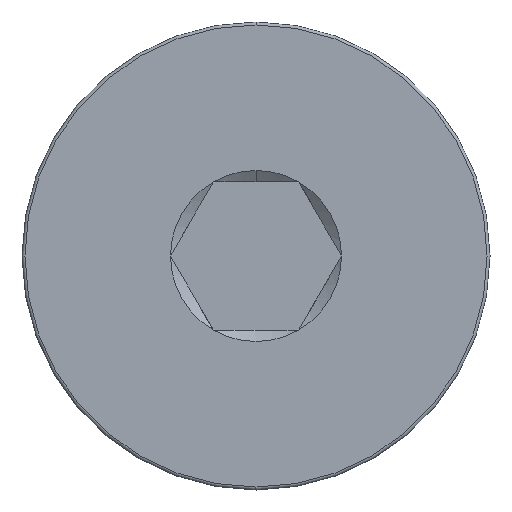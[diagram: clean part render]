
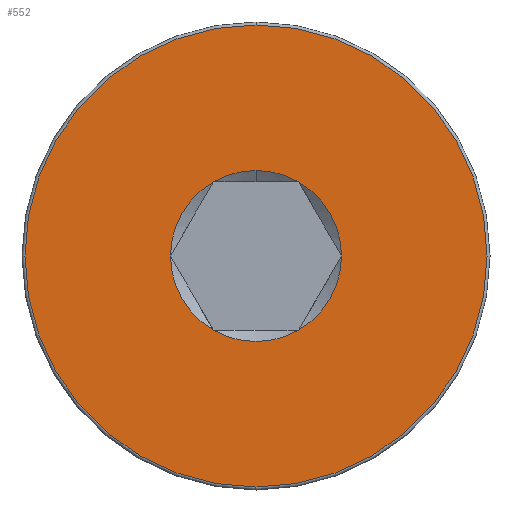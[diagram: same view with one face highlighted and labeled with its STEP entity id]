
A CAD part, left-side view. The second image highlights one B-rep face of the part: STEP entity #552.
In plain terms, the highlighted planar face has unit normal (-1, 0, 0).
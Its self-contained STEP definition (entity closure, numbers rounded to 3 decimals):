
#1 = DIRECTION ( 'NONE',  ( -1., 0., 0. ) ) ;
#11 = AXIS2_PLACEMENT_3D ( 'NONE', #263, #708, #24 ) ;
#16 = EDGE_CURVE ( 'NONE', #397, #731, #186, .T. ) ;
#22 = CARTESIAN_POINT ( 'NONE',  ( 0., 0., 0. ) ) ;
#24 = DIRECTION ( 'NONE',  ( 0., 0., -1. ) ) ;
#30 = VERTEX_POINT ( 'NONE', #174 ) ;
#36 = EDGE_CURVE ( 'NONE', #373, #702, #455, .T. ) ;
#71 = EDGE_CURVE ( 'NONE', #731, #397, #275, .T. ) ;
#83 = AXIS2_PLACEMENT_3D ( 'NONE', #404, #358, #351 ) ;
#86 = CIRCLE ( 'NONE', #11, 2.887 ) ;
#115 = ORIENTED_EDGE ( 'NONE', *, *, #71, .T. ) ;
#119 = DIRECTION ( 'NONE',  ( 0., 0., 1. ) ) ;
#128 = CARTESIAN_POINT ( 'NONE',  ( 0., 0., 0. ) ) ;
#136 = DIRECTION ( 'NONE',  ( 0., 0., -1. ) ) ;
#155 = ORIENTED_EDGE ( 'NONE', *, *, #667, .T. ) ;
#156 = CARTESIAN_POINT ( 'NONE',  ( 0., -1.443, 2.5 ) ) ;
#167 = DIRECTION ( 'NONE',  ( 0., 0., 1. ) ) ;
#172 = ORIENTED_EDGE ( 'NONE', *, *, #728, .T. ) ;
#174 = CARTESIAN_POINT ( 'NONE',  ( 0., -1.443, -2.5 ) ) ;
#186 = CIRCLE ( 'NONE', #305, 7.8 ) ;
#192 = DIRECTION ( 'NONE',  ( 1., 0., 0. ) ) ;
#202 = AXIS2_PLACEMENT_3D ( 'NONE', #745, #379, #256 ) ;
#206 = DIRECTION ( 'NONE',  ( 0., 0., -1. ) ) ;
#221 = CARTESIAN_POINT ( 'NONE',  ( 0., 2.887, 0. ) ) ;
#241 = AXIS2_PLACEMENT_3D ( 'NONE', #695, #271, #574 ) ;
#249 = ORIENTED_EDGE ( 'NONE', *, *, #671, .T. ) ;
#254 = VERTEX_POINT ( 'NONE', #391 ) ;
#256 = DIRECTION ( 'NONE',  ( 0., 0., -1. ) ) ;
#263 = CARTESIAN_POINT ( 'NONE',  ( 0., 0., 0. ) ) ;
#266 = AXIS2_PLACEMENT_3D ( 'NONE', #496, #192, #436 ) ;
#271 = DIRECTION ( 'NONE',  ( 1., 0., 0. ) ) ;
#275 = CIRCLE ( 'NONE', #287, 7.8 ) ;
#287 = AXIS2_PLACEMENT_3D ( 'NONE', #346, #721, #167 ) ;
#289 = CIRCLE ( 'NONE', #800, 2.887 ) ;
#298 = ORIENTED_EDGE ( 'NONE', *, *, #16, .T. ) ;
#299 = CARTESIAN_POINT ( 'NONE',  ( 0., 0., 2.887 ) ) ;
#301 = ORIENTED_EDGE ( 'NONE', *, *, #683, .T. ) ;
#305 = AXIS2_PLACEMENT_3D ( 'NONE', #790, #729, #533 ) ;
#307 = AXIS2_PLACEMENT_3D ( 'NONE', #128, #1, #119 ) ;
#337 = EDGE_CURVE ( 'NONE', #603, #341, #86, .T. ) ;
#341 = VERTEX_POINT ( 'NONE', #156 ) ;
#346 = CARTESIAN_POINT ( 'NONE',  ( 0., 0., 0. ) ) ;
#351 = DIRECTION ( 'NONE',  ( 0., 0., -1. ) ) ;
#358 = DIRECTION ( 'NONE',  ( 1., 0., 0. ) ) ;
#360 = EDGE_CURVE ( 'NONE', #702, #603, #289, .T. ) ;
#373 = VERTEX_POINT ( 'NONE', #221 ) ;
#374 = FACE_OUTER_BOUND ( 'NONE', #725, .T. ) ;
#379 = DIRECTION ( 'NONE',  ( 1., 0., 0. ) ) ;
#385 = CIRCLE ( 'NONE', #266, 2.887 ) ;
#391 = CARTESIAN_POINT ( 'NONE',  ( 0., -2.887, 0. ) ) ;
#397 = VERTEX_POINT ( 'NONE', #664 ) ;
#398 = ORIENTED_EDGE ( 'NONE', *, *, #337, .T. ) ;
#404 = CARTESIAN_POINT ( 'NONE',  ( 0., 0., 0. ) ) ;
#436 = DIRECTION ( 'NONE',  ( 0., 0., -1. ) ) ;
#455 = CIRCLE ( 'NONE', #83, 2.887 ) ;
#459 = CARTESIAN_POINT ( 'NONE',  ( 0., 1.443, 2.5 ) ) ;
#496 = CARTESIAN_POINT ( 'NONE',  ( 0., 0., 0. ) ) ;
#501 = CARTESIAN_POINT ( 'NONE',  ( 0., 0., 0. ) ) ;
#523 = AXIS2_PLACEMENT_3D ( 'NONE', #501, #686, #136 ) ;
#524 = EDGE_LOOP ( 'NONE', ( #645, #648, #398, #301, #172, #249, #155 ) ) ;
#533 = DIRECTION ( 'NONE',  ( 0., 0., 1. ) ) ;
#552 = ADVANCED_FACE ( 'NONE', ( #678, #374 ), #751, .T. ) ;
#574 = DIRECTION ( 'NONE',  ( 0., 0., -1. ) ) ;
#577 = CARTESIAN_POINT ( 'NONE',  ( 0., 1.443, -2.5 ) ) ;
#603 = VERTEX_POINT ( 'NONE', #299 ) ;
#629 = CIRCLE ( 'NONE', #241, 2.887 ) ;
#630 = CARTESIAN_POINT ( 'NONE',  ( 0., 0., 7.8 ) ) ;
#645 = ORIENTED_EDGE ( 'NONE', *, *, #36, .T. ) ;
#648 = ORIENTED_EDGE ( 'NONE', *, *, #360, .T. ) ;
#664 = CARTESIAN_POINT ( 'NONE',  ( 0., 0., -7.8 ) ) ;
#667 = EDGE_CURVE ( 'NONE', #792, #373, #385, .T. ) ;
#671 = EDGE_CURVE ( 'NONE', #30, #792, #732, .T. ) ;
#678 = FACE_BOUND ( 'NONE', #524, .T. ) ;
#683 = EDGE_CURVE ( 'NONE', #341, #254, #774, .T. ) ;
#686 = DIRECTION ( 'NONE',  ( 1., 0., 0. ) ) ;
#695 = CARTESIAN_POINT ( 'NONE',  ( 0., 0., 0. ) ) ;
#702 = VERTEX_POINT ( 'NONE', #459 ) ;
#708 = DIRECTION ( 'NONE',  ( 1., 0., 0. ) ) ;
#721 = DIRECTION ( 'NONE',  ( -1., 0., 0. ) ) ;
#725 = EDGE_LOOP ( 'NONE', ( #115, #298 ) ) ;
#728 = EDGE_CURVE ( 'NONE', #254, #30, #629, .T. ) ;
#729 = DIRECTION ( 'NONE',  ( -1., 0., 0. ) ) ;
#731 = VERTEX_POINT ( 'NONE', #630 ) ;
#732 = CIRCLE ( 'NONE', #202, 2.887 ) ;
#745 = CARTESIAN_POINT ( 'NONE',  ( 0., 0., 0. ) ) ;
#751 = PLANE ( 'NONE',  #307 ) ;
#764 = DIRECTION ( 'NONE',  ( 1., 0., 0. ) ) ;
#774 = CIRCLE ( 'NONE', #523, 2.887 ) ;
#790 = CARTESIAN_POINT ( 'NONE',  ( 0., 0., 0. ) ) ;
#792 = VERTEX_POINT ( 'NONE', #577 ) ;
#800 = AXIS2_PLACEMENT_3D ( 'NONE', #22, #764, #206 ) ;
